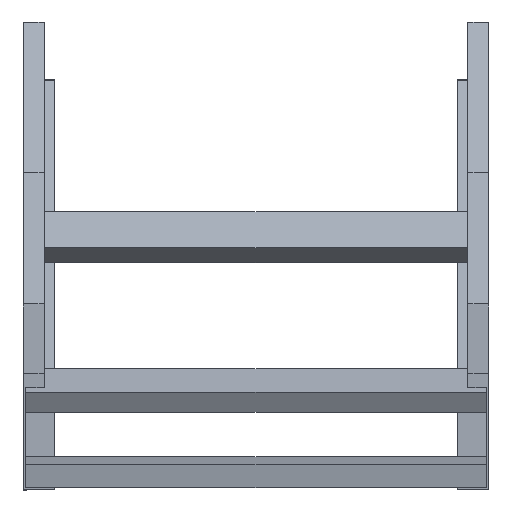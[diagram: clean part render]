
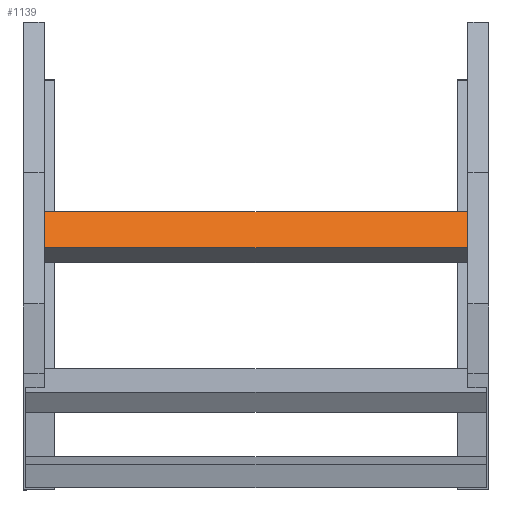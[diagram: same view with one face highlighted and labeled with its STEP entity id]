
A CAD part, top view. The second image highlights one B-rep face of the part: STEP entity #1139.
In plain terms, the highlighted planar face has unit normal (0, 0.643, 0.766) as drawn and (0, 1, 0) by its records, which use the part's own axes.
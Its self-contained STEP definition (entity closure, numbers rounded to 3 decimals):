
#23 = CARTESIAN_POINT ( 'NONE',  ( 198., 20., 20.25 ) ) ;
#36 = CARTESIAN_POINT ( 'NONE',  ( -198., 20., 20.25 ) ) ;
#37 = ORIENTED_EDGE ( 'NONE', *, *, #1646, .F. ) ;
#77 = DIRECTION ( 'NONE',  ( 0., 0., -1. ) ) ;
#120 = DIRECTION ( 'NONE',  ( 0., 0., 1. ) ) ;
#134 = VERTEX_POINT ( 'NONE', #36 ) ;
#169 = EDGE_CURVE ( 'NONE', #1233, #542, #840, .T. ) ;
#200 = CARTESIAN_POINT ( 'NONE',  ( -198., 20., 20.25 ) ) ;
#207 = CARTESIAN_POINT ( 'NONE',  ( 198., 20., 20.25 ) ) ;
#295 = CARTESIAN_POINT ( 'NONE',  ( 198., 20., 20.25 ) ) ;
#301 = VECTOR ( 'NONE', #1326, 1000. ) ;
#441 = VECTOR ( 'NONE', #816, 1000. ) ;
#443 = VERTEX_POINT ( 'NONE', #798 ) ;
#523 = AXIS2_PLACEMENT_3D ( 'NONE', #207, #1256, #77 ) ;
#542 = VERTEX_POINT ( 'NONE', #1598 ) ;
#563 = CARTESIAN_POINT ( 'NONE',  ( 198., 20., -20.25 ) ) ;
#653 = ORIENTED_EDGE ( 'NONE', *, *, #983, .F. ) ;
#669 = LINE ( 'NONE', #23, #301 ) ;
#732 = FACE_OUTER_BOUND ( 'NONE', #873, .T. ) ;
#798 = CARTESIAN_POINT ( 'NONE',  ( 198., 20., 20.25 ) ) ;
#816 = DIRECTION ( 'NONE',  ( -1., 0., 0. ) ) ;
#820 = DIRECTION ( 'NONE',  ( 0., 0., 1. ) ) ;
#840 = LINE ( 'NONE', #563, #441 ) ;
#873 = EDGE_LOOP ( 'NONE', ( #1365, #37, #653, #1148 ) ) ;
#934 = CARTESIAN_POINT ( 'NONE',  ( 198., 20., -20.25 ) ) ;
#951 = LINE ( 'NONE', #295, #1595 ) ;
#983 = EDGE_CURVE ( 'NONE', #1233, #443, #951, .T. ) ;
#1038 = EDGE_CURVE ( 'NONE', #542, #134, #1176, .T. ) ;
#1139 = ADVANCED_FACE ( 'NONE', ( #732 ), #1379, .F. ) ;
#1148 = ORIENTED_EDGE ( 'NONE', *, *, #169, .T. ) ;
#1176 = LINE ( 'NONE', #200, #1322 ) ;
#1233 = VERTEX_POINT ( 'NONE', #934 ) ;
#1256 = DIRECTION ( 'NONE',  ( 0., -1., 0. ) ) ;
#1322 = VECTOR ( 'NONE', #120, 1000. ) ;
#1326 = DIRECTION ( 'NONE',  ( -1., 0., 0. ) ) ;
#1365 = ORIENTED_EDGE ( 'NONE', *, *, #1038, .T. ) ;
#1379 = PLANE ( 'NONE',  #523 ) ;
#1595 = VECTOR ( 'NONE', #820, 1000. ) ;
#1598 = CARTESIAN_POINT ( 'NONE',  ( -198., 20., -20.25 ) ) ;
#1646 = EDGE_CURVE ( 'NONE', #443, #134, #669, .T. ) ;
